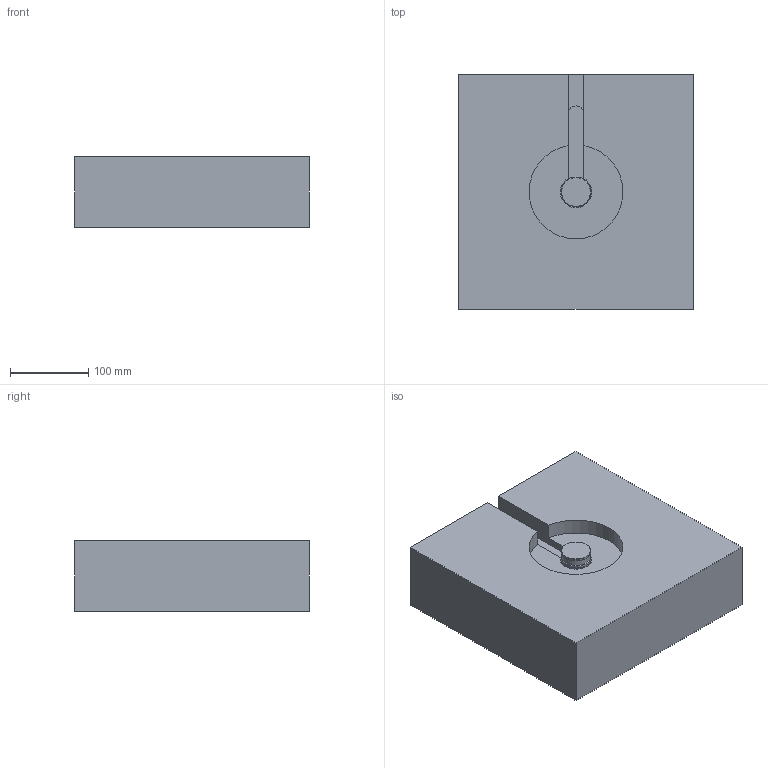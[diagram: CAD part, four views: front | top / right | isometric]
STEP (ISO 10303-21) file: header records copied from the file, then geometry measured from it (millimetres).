
FILE_DESCRIPTION( ( 'STEP AP214' ), '1' );
FILE_NAME( 'S:/PROIECTE_YUDO_2009_dupa_1.07.2009/PROIECTE YUDO 3D 01.07.2009/BIS/YUEU09-BIS18CC085/YUEU09-BIS18CC085.step', '2009-09-03T12:12:42', ( ' ' ), ( ' ' ), 'XStep 1.0', ' ', ' ' );
FILE_SCHEMA( ( 'automotive_design' ) );
Length unit declared in the file: millimetre
Products named in the file (4): 1; 2; 3; 4
Bounding box: 300 x 300 x 90 mm (x, y, z)
Volume: 7811091.2 mm3; surface area: 321674.8 mm2
Topology: 4 solids, 4 shells, 115 faces, 302 edges, 201 vertices
Faces by surface type: plane 57, cylinder 40, cone 10, torus 6, bspline 1, sphere 1
Full cylindrical faces by diameter (mm): 1.7 x2, 14 x1, 17 x1, 18 x2, 18.2 x1, 18.25 x1, 24 x1, 28.62 x1, 32 x1, 37 x1, 38 x2
Entity records: 4502 total; most frequent: CARTESIAN_POINT 779, DIRECTION 572, ORIENTED_EDGE 538, EDGE_CURVE 269, AXIS2_PLACEMENT_3D 221, VERTEX_POINT 196, EDGE_LOOP 157, FACE_OUTER_BOUND 137
